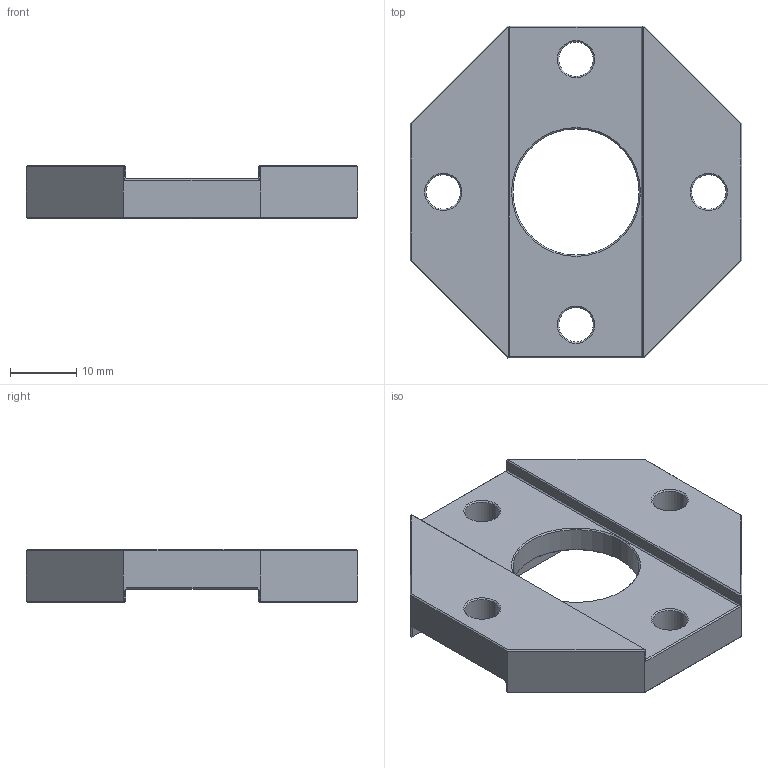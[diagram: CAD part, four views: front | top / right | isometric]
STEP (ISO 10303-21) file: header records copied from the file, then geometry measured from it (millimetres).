
FILE_DESCRIPTION (( 'STEP AP214' ), '1' );
FILE_NAME ('SMBA-2020.STEP', '2023-02-22T08:28:29', ( 'Windows User' ), ( 'P R C' ), 'SwSTEP 2.0', 'SolidWorks 2019', '' );
FILE_SCHEMA (( 'AUTOMOTIVE_DESIGN' ));
Length unit declared in the file: millimetre
Products named in the file (1): SMBA-2020
Bounding box: 50 x 50 x 8 mm (x, y, z)
Volume: 10912.9 mm3; surface area: 5485.8 mm2
Topology: 1 solids, 1 shells, 102 faces, 244 edges, 144 vertices
Faces by surface type: plane 72, cone 20, cylinder 10
Entity records: 3255 total; most frequent: CARTESIAN_POINT 491, DIRECTION 490, ORIENTED_EDGE 488, EDGE_CURVE 244, VECTOR 204, LINE 204, VERTEX_POINT 144, AXIS2_PLACEMENT_3D 143
